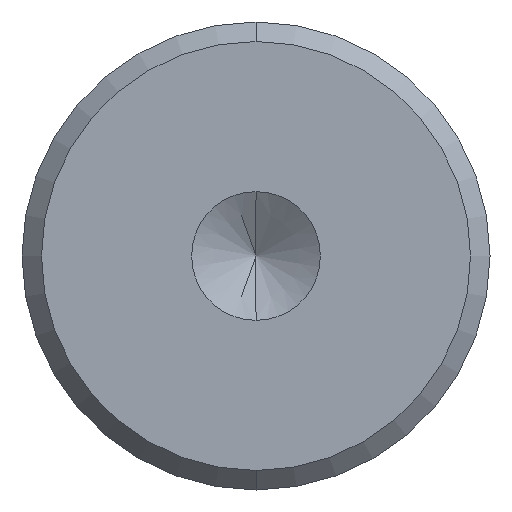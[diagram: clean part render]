
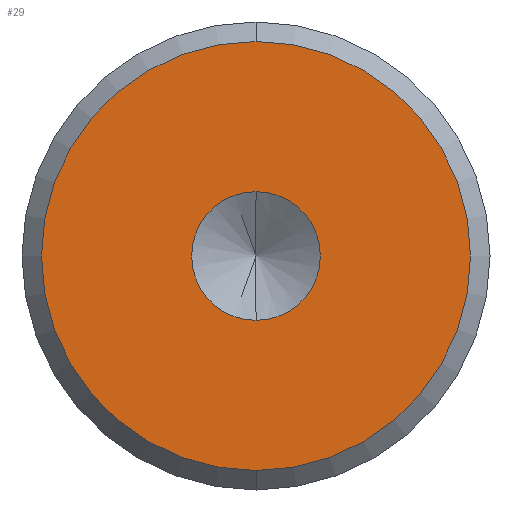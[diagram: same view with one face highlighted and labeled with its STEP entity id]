
A CAD part, front view. The second image highlights one B-rep face of the part: STEP entity #29.
In plain terms, the highlighted planar face has unit normal (0, -1, 0).
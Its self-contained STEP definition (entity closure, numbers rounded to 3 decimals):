
#26 = DIRECTION ( 'NONE',  ( 0., -1., 0. ) ) ;
#29 = ADVANCED_FACE ( 'NONE', ( #41, #427 ), #375, .F. ) ;
#41 = FACE_BOUND ( 'NONE', #247, .T. ) ;
#44 = AXIS2_PLACEMENT_3D ( 'NONE', #50, #167, #315 ) ;
#50 = CARTESIAN_POINT ( 'NONE',  ( 0., 0., 0. ) ) ;
#65 = DIRECTION ( 'NONE',  ( 0., -1., 0. ) ) ;
#86 = ORIENTED_EDGE ( 'NONE', *, *, #143, .F. ) ;
#88 = DIRECTION ( 'NONE',  ( 0., 0., 1. ) ) ;
#96 = CARTESIAN_POINT ( 'NONE',  ( 0., 0., 5.5 ) ) ;
#103 = DIRECTION ( 'NONE',  ( 0., -1., 0. ) ) ;
#124 = AXIS2_PLACEMENT_3D ( 'NONE', #415, #26, #217 ) ;
#130 = AXIS2_PLACEMENT_3D ( 'NONE', #493, #103, #138 ) ;
#138 = DIRECTION ( 'NONE',  ( 0., 0., 1. ) ) ;
#143 = EDGE_CURVE ( 'NONE', #432, #378, #194, .T. ) ;
#144 = EDGE_LOOP ( 'NONE', ( #265, #463 ) ) ;
#167 = DIRECTION ( 'NONE',  ( 0., -1., 0. ) ) ;
#175 = DIRECTION ( 'NONE',  ( 0., 0., 1. ) ) ;
#194 = CIRCLE ( 'NONE', #44, 1.65 ) ;
#217 = DIRECTION ( 'NONE',  ( 0., 0., -1. ) ) ;
#222 = AXIS2_PLACEMENT_3D ( 'NONE', #504, #312, #88 ) ;
#229 = EDGE_CURVE ( 'NONE', #298, #466, #273, .T. ) ;
#240 = EDGE_CURVE ( 'NONE', #378, #432, #377, .T. ) ;
#247 = EDGE_LOOP ( 'NONE', ( #86, #342 ) ) ;
#265 = ORIENTED_EDGE ( 'NONE', *, *, #229, .T. ) ;
#273 = CIRCLE ( 'NONE', #130, 5.5 ) ;
#279 = CIRCLE ( 'NONE', #290, 5.5 ) ;
#290 = AXIS2_PLACEMENT_3D ( 'NONE', #368, #65, #175 ) ;
#298 = VERTEX_POINT ( 'NONE', #96 ) ;
#310 = CARTESIAN_POINT ( 'NONE',  ( 0., 0., -5.5 ) ) ;
#312 = DIRECTION ( 'NONE',  ( 0., 1., 0. ) ) ;
#315 = DIRECTION ( 'NONE',  ( 0., 0., -1. ) ) ;
#342 = ORIENTED_EDGE ( 'NONE', *, *, #240, .F. ) ;
#349 = CARTESIAN_POINT ( 'NONE',  ( 0., 0., -1.65 ) ) ;
#364 = CARTESIAN_POINT ( 'NONE',  ( 0., 0., 1.65 ) ) ;
#368 = CARTESIAN_POINT ( 'NONE',  ( 0., 0., 0. ) ) ;
#375 = PLANE ( 'NONE',  #222 ) ;
#377 = CIRCLE ( 'NONE', #124, 1.65 ) ;
#378 = VERTEX_POINT ( 'NONE', #364 ) ;
#415 = CARTESIAN_POINT ( 'NONE',  ( 0., 0., 0. ) ) ;
#427 = FACE_OUTER_BOUND ( 'NONE', #144, .T. ) ;
#432 = VERTEX_POINT ( 'NONE', #349 ) ;
#463 = ORIENTED_EDGE ( 'NONE', *, *, #507, .T. ) ;
#466 = VERTEX_POINT ( 'NONE', #310 ) ;
#493 = CARTESIAN_POINT ( 'NONE',  ( 0., 0., 0. ) ) ;
#504 = CARTESIAN_POINT ( 'NONE',  ( 0., 0., 0. ) ) ;
#507 = EDGE_CURVE ( 'NONE', #466, #298, #279, .T. ) ;
